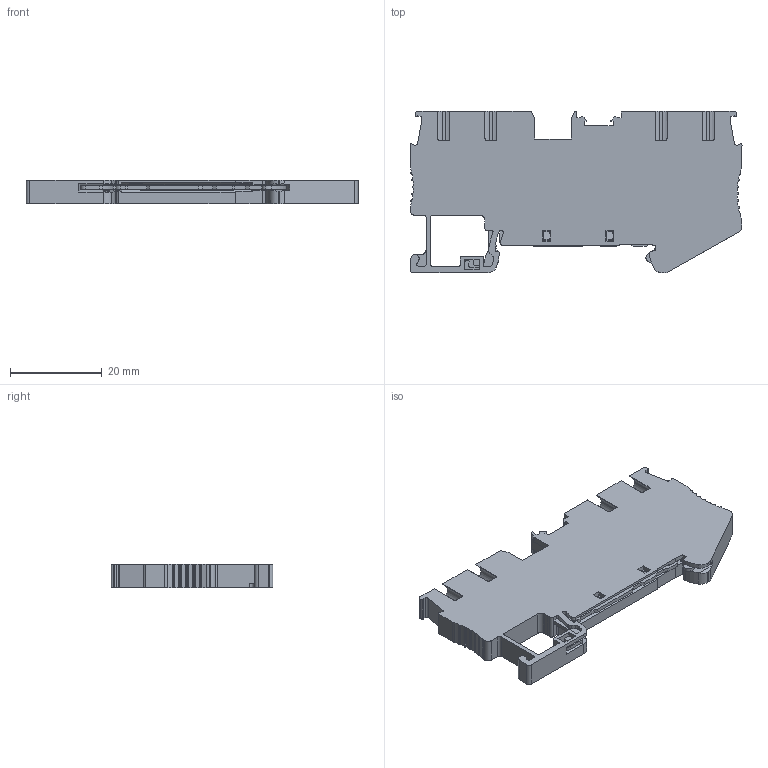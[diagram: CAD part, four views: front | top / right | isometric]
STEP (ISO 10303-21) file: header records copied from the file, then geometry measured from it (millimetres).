
FILE_DESCRIPTION(/* description */ (''),/* implementation_level */ '2;1');
FILE_NAME(/* name */ 'UPT-2.5-2-2PE ASSY.stp',/* time_stamp */ '2024-04-26T14:29:15+08:00',/* author */ (''),/* organization */ (''),/* preprocessor_version */ 'ST-DEVELOPER v16.7',/* originating_system */ 'SIEMENS PLM Software NX 12.0',/* authorisation */ '');
FILE_SCHEMA (('AUTOMOTIVE_DESIGN { 1 0 10303 214 3 1 1 1 }'));
Length unit declared in the file: millimetre
Products named in the file (1): Admi0EB4BAB8ixio
Bounding box: 72.4 x 35.31 x 5.2 mm (x, y, z)
Volume: 9022.7 mm3; surface area: 8483.6 mm2
Topology: 1 solids, 7 shells, 1086 faces, 3119 edges, 2045 vertices
Faces by surface type: plane 655, cylinder 377, cone 32, torus 22
Entity records: 35816 total; most frequent: CARTESIAN_POINT 6801, ORIENTED_EDGE 6206, DIRECTION 5988, EDGE_CURVE 3103, LINE 2184, VECTOR 2184, VERTEX_POINT 2045, AXIS2_PLACEMENT_3D 1902
